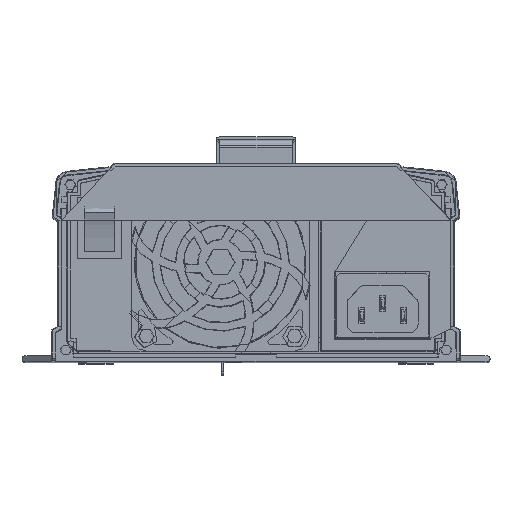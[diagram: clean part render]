
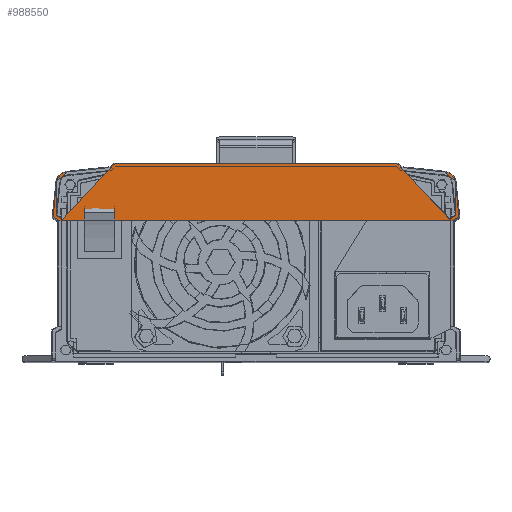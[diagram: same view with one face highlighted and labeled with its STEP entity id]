
A CAD part, top view. The second image highlights one B-rep face of the part: STEP entity #988550.
In plain terms, the highlighted planar face has unit normal (0, 0, 1).
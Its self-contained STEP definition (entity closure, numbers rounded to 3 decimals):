
#979930=CARTESIAN_POINT('',(67.48,-70.607,
22.425));
#979940=VERTEX_POINT('',#979930);
#980250=CARTESIAN_POINT('',(-66.738,-68.85,
22.425));
#980260=VERTEX_POINT('',#980250);
#980290=CARTESIAN_POINT('',(-66.738,-54.726,
22.425));
#980300=DIRECTION('',(0.,1.,0.));
#980310=VECTOR('',#980300,1.);
#980320=LINE('',#980290,#980310);
#980330=CARTESIAN_POINT('',(-66.738,-69.001,
22.425));
#980340=VERTEX_POINT('',#980330);
#980350=EDGE_CURVE('',#980340,#980260,#980320,.T.);
#980580=CARTESIAN_POINT('',(-10.503,-36.534,
22.425));
#980590=DIRECTION('',(0.866,0.5,0.));
#980600=VECTOR('',#980590,1.);
#980610=LINE('',#980580,#980600);
#980620=CARTESIAN_POINT('',(-68.546,-70.045,
22.425));
#980630=VERTEX_POINT('',#980620);
#980640=EDGE_CURVE('',#980630,#980340,#980610,.T.);
#980860=CARTESIAN_POINT('',(-65.737,-69.251,
22.425));
#980870=VERTEX_POINT('',#980860);
#980920=CARTESIAN_POINT('',(-65.737,-68.85,
22.425));
#980930=DIRECTION('',(0.,1.,0.));
#980940=VECTOR('',#980930,1.);
#980950=LINE('',#980920,#980940);
#980960=CARTESIAN_POINT('',(-65.737,-68.85,
22.425));
#980970=VERTEX_POINT('',#980960);
#980980=EDGE_CURVE('',#980870,#980970,#980950,.T.);
#981430=CARTESIAN_POINT('',(68.546,-70.045,
22.425));
#981440=VERTEX_POINT('',#981430);
#981470=CARTESIAN_POINT('',(10.503,-36.534,
22.425));
#981480=DIRECTION('',(0.866,-0.5,0.));
#981490=VECTOR('',#981480,1.);
#981500=LINE('',#981470,#981490);
#981510=CARTESIAN_POINT('',(66.738,-69.001,
22.425));
#981520=VERTEX_POINT('',#981510);
#981530=EDGE_CURVE('',#981520,#981440,#981500,.T.);
#981690=CARTESIAN_POINT('',(66.738,-68.85,
22.425));
#981700=DIRECTION('',(0.,1.,0.));
#981710=VECTOR('',#981700,1.);
#981720=LINE('',#981690,#981710);
#981730=CARTESIAN_POINT('',(66.738,-68.85,
22.425));
#981740=VERTEX_POINT('',#981730);
#981750=EDGE_CURVE('',#981520,#981740,#981720,.T.);
#983010=CARTESIAN_POINT('',(65.737,-68.85,
22.425));
#983020=VERTEX_POINT('',#983010);
#983050=CARTESIAN_POINT('',(65.737,-54.22,
22.425));
#983060=DIRECTION('',(0.,1.,0.));
#983070=VECTOR('',#983060,1.);
#983080=LINE('',#983050,#983070);
#983090=CARTESIAN_POINT('',(65.737,-69.251,
22.425));
#983100=VERTEX_POINT('',#983090);
#983110=EDGE_CURVE('',#983100,#983020,#983080,.T.);
#983390=CARTESIAN_POINT('',(66.021,-69.743,
22.425));
#983400=VERTEX_POINT('',#983390);
#983450=CARTESIAN_POINT('',(9.784,-37.274,
22.425));
#983460=DIRECTION('',(-0.866,0.5,0.));
#983470=VECTOR('',#983460,1.);
#983480=LINE('',#983450,#983470);
#983490=EDGE_CURVE('',#979940,#983400,#983480,.T.);
#986370=CARTESIAN_POINT('',(-67.465,-70.576,
22.425));
#986380=VERTEX_POINT('',#986370);
#986690=CARTESIAN_POINT('',(-9.784,-37.274,
22.425));
#986700=DIRECTION('',(-0.866,-0.5,0.));
#986710=VECTOR('',#986700,1.);
#986720=LINE('',#986690,#986710);
#986730=CARTESIAN_POINT('',(-66.021,-69.743,
22.425));
#986740=VERTEX_POINT('',#986730);
#986750=EDGE_CURVE('',#986740,#986380,#986720,.T.);
#986940=CARTESIAN_POINT('',(-69.,-68.85,
22.425));
#986950=DIRECTION('',(0.,0.,-1.));
#986960=DIRECTION('',(0.,1.,0.));
#986970=AXIS2_PLACEMENT_3D('',#986940,#986950,#986960);
#986980=PLANE('',#986970);
#987270=ORIENTED_EDGE('',*,*,#983490,.F.);
#987280=CARTESIAN_POINT('',(66.307,-69.25,
22.425));
#987290=DIRECTION('',(0.,0.,1.));
#987300=DIRECTION('',(0.866,0.5,0.));
#987310=AXIS2_PLACEMENT_3D('',#987280,#987290,#987300);
#987320=ELLIPSE('',#987310,0.57,0.569);
#987330=EDGE_CURVE('',#983100,#983400,#987320,.T.);
#987340=ORIENTED_EDGE('',*,*,#987330,.T.);
#987350=ORIENTED_EDGE('',*,*,#983110,.F.);
#987360=CARTESIAN_POINT('',(-2095.876,-68.85,
22.425));
#987370=DIRECTION('',(-1.,0.,0.));
#987380=VECTOR('',#987370,1.);
#987390=LINE('',#987360,#987380);
#987400=EDGE_CURVE('',#981740,#983020,#987390,.T.);
#987410=ORIENTED_EDGE('',*,*,#987400,.T.);
#987420=ORIENTED_EDGE('',*,*,#981750,.T.);
#987430=ORIENTED_EDGE('',*,*,#981530,.F.);
#987440=CARTESIAN_POINT('',(69.389,-62.019,
22.425));
#987450=DIRECTION('',(-0.105,-0.995,0.));
#987460=VECTOR('',#987450,1.);
#987470=LINE('',#987440,#987460);
#987480=CARTESIAN_POINT('',(67.3,-81.899,
22.425));
#987490=VERTEX_POINT('',#987480);
#987500=EDGE_CURVE('',#981440,#987490,#987470,.T.);
#987510=ORIENTED_EDGE('',*,*,#987500,.F.);
#987520=CARTESIAN_POINT('',(63.582,-81.509,
22.425));
#987530=DIRECTION('',(0.,0.,-1.));
#987540=DIRECTION('',(-1.,0.,0.));
#987550=AXIS2_PLACEMENT_3D('',#987520,#987530,#987540);
#987560=CIRCLE('',#987550,3.738);
#987570=CARTESIAN_POINT('',(63.973,-85.226,
22.425));
#987580=VERTEX_POINT('',#987570);
#987590=EDGE_CURVE('',#987490,#987580,#987560,.T.);
#987600=ORIENTED_EDGE('',*,*,#987590,.F.);
#987610=CARTESIAN_POINT('',(3.87,-91.543,
22.425));
#987620=DIRECTION('',(-0.995,-0.105,0.));
#987630=VECTOR('',#987620,1.);
#987640=LINE('',#987610,#987630);
#987650=CARTESIAN_POINT('',(49.801,-86.716,
22.425));
#987660=VERTEX_POINT('',#987650);
#987670=EDGE_CURVE('',#987580,#987660,#987640,.T.);
#987680=ORIENTED_EDGE('',*,*,#987670,.F.);
#987690=CARTESIAN_POINT('',(50.037,-88.965,
22.425));
#987700=DIRECTION('',(0.,0.,1.));
#987710=DIRECTION('',(-1.,0.,0.));
#987720=AXIS2_PLACEMENT_3D('',#987690,#987700,#987710);
#987730=CIRCLE('',#987720,2.262);
#987740=CARTESIAN_POINT('',(48.194,-87.654,
22.425));
#987750=VERTEX_POINT('',#987740);
#987760=EDGE_CURVE('',#987660,#987750,#987730,.T.);
#987770=ORIENTED_EDGE('',*,*,#987760,.F.);
#987780=CARTESIAN_POINT('',(47.593,-87.226,
22.425));
#987790=DIRECTION('',(0.,0.,-1.));
#987800=DIRECTION('',(-1.,0.,0.));
#987810=AXIS2_PLACEMENT_3D('',#987780,#987790,#987800);
#987820=CIRCLE('',#987810,0.738);
#987830=CARTESIAN_POINT('',(47.593,-87.964,
22.425));
#987840=VERTEX_POINT('',#987830);
#987850=EDGE_CURVE('',#987750,#987840,#987820,.T.);
#987860=ORIENTED_EDGE('',*,*,#987850,.F.);
#987870=CARTESIAN_POINT('',(0.,-87.964,
22.425));
#987880=DIRECTION('',(-1.,0.,0.));
#987890=VECTOR('',#987880,1.);
#987900=LINE('',#987870,#987890);
#987910=CARTESIAN_POINT('',(-47.577,-87.964,
22.425));
#987920=VERTEX_POINT('',#987910);
#987930=EDGE_CURVE('',#987840,#987920,#987900,.T.);
#987940=ORIENTED_EDGE('',*,*,#987930,.F.);
#987950=CARTESIAN_POINT('',(-47.577,-87.226,
22.425));
#987960=DIRECTION('',(0.,0.,-1.));
#987970=DIRECTION('',(-1.,0.,0.));
#987980=AXIS2_PLACEMENT_3D('',#987950,#987960,#987970);
#987990=CIRCLE('',#987980,0.738);
#988000=CARTESIAN_POINT('',(-48.178,-87.655,
22.425));
#988010=VERTEX_POINT('',#988000);
#988020=EDGE_CURVE('',#987920,#988010,#987990,.T.);
#988030=ORIENTED_EDGE('',*,*,#988020,.F.);
#988040=CARTESIAN_POINT('',(-50.02,-88.968,
22.425));
#988050=DIRECTION('',(0.,0.,1.));
#988060=DIRECTION('',(-1.,0.,0.));
#988070=AXIS2_PLACEMENT_3D('',#988040,#988050,#988060);
#988080=CIRCLE('',#988070,2.262);
#988090=CARTESIAN_POINT('',(-49.784,-86.718,
22.425));
#988100=VERTEX_POINT('',#988090);
#988110=EDGE_CURVE('',#988010,#988100,#988080,.T.);
#988120=ORIENTED_EDGE('',*,*,#988110,.F.);
#988130=CARTESIAN_POINT('',(-70.648,-84.525,
22.425));
#988140=DIRECTION('',(-0.995,0.105,0.));
#988150=VECTOR('',#988140,1.);
#988160=LINE('',#988130,#988150);
#988170=CARTESIAN_POINT('',(-63.973,-85.226,
22.425));
#988180=VERTEX_POINT('',#988170);
#988190=EDGE_CURVE('',#988100,#988180,#988160,.T.);
#988200=ORIENTED_EDGE('',*,*,#988190,.F.);
#988210=CARTESIAN_POINT('',(-63.582,-81.509,
22.425));
#988220=DIRECTION('',(0.,0.,-1.));
#988230=DIRECTION('',(-1.,0.,0.));
#988240=AXIS2_PLACEMENT_3D('',#988210,#988220,#988230);
#988250=CIRCLE('',#988240,3.738);
#988260=CARTESIAN_POINT('',(-67.3,-81.899,
22.425));
#988270=VERTEX_POINT('',#988260);
#988280=EDGE_CURVE('',#988180,#988270,#988250,.T.);
#988290=ORIENTED_EDGE('',*,*,#988280,.F.);
#988300=CARTESIAN_POINT('',(-69.389,-62.019,
22.425));
#988310=DIRECTION('',(-0.105,0.995,0.));
#988320=VECTOR('',#988310,1.);
#988330=LINE('',#988300,#988320);
#988340=EDGE_CURVE('',#988270,#980630,#988330,.T.);
#988350=ORIENTED_EDGE('',*,*,#988340,.F.);
#988360=ORIENTED_EDGE('',*,*,#980640,.F.);
#988370=ORIENTED_EDGE('',*,*,#980350,.F.);
#988380=CARTESIAN_POINT('',(-2095.876,-68.85,
22.425));
#988390=DIRECTION('',(-1.,0.,0.));
#988400=VECTOR('',#988390,1.);
#988410=LINE('',#988380,#988400);
#988420=EDGE_CURVE('',#980970,#980260,#988410,.T.);
#988430=ORIENTED_EDGE('',*,*,#988420,.T.);
#988440=ORIENTED_EDGE('',*,*,#980980,.T.);
#988450=CARTESIAN_POINT('',(-66.307,-69.25,
22.425));
#988460=DIRECTION('',(0.,0.,1.));
#988470=DIRECTION('',(0.866,-0.5,0.));
#988480=AXIS2_PLACEMENT_3D('',#988450,#988460,#988470);
#988490=ELLIPSE('',#988480,0.57,0.569);
#988500=EDGE_CURVE('',#986740,#980870,#988490,.T.);
#988510=ORIENTED_EDGE('',*,*,#988500,.T.);
#988520=ORIENTED_EDGE('',*,*,#986750,.F.);
#988530=EDGE_LOOP('',(#988520,#988510,#988440,#988430,#988370,#988360,
#988350,#988290,#988200,#988120,#988030,#987940,#987860,#987770,#987680,
#987600,#987510,#987430,#987420,#987410,#987350,#987340,#987270));
#988540=FACE_OUTER_BOUND('',#988530,.T.);
#988550=ADVANCED_FACE('',(#988540),#986980,.F.);
